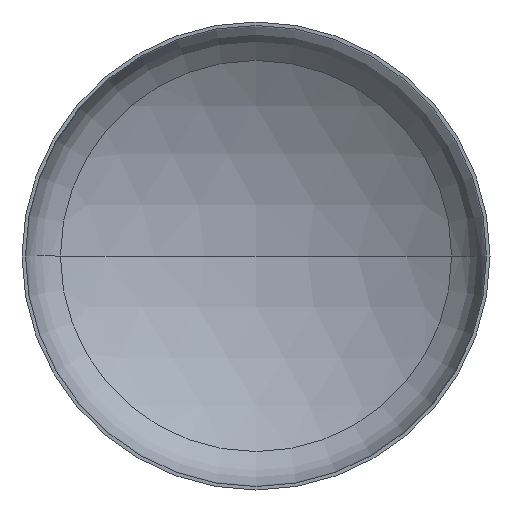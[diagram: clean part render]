
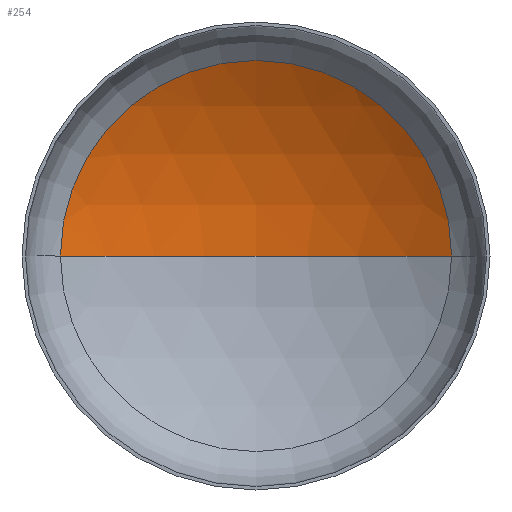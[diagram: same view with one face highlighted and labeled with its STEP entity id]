
A CAD part, front view. The second image highlights one B-rep face of the part: STEP entity #254.
In plain terms, the highlighted spherical face has radius 640 mm.
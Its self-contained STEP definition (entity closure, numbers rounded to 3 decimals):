
#5 = AXIS2_PLACEMENT_3D ( 'NONE', #275, #248, #333 ) ;
#12 = AXIS2_PLACEMENT_3D ( 'NONE', #60, #201, #359 ) ;
#16 = AXIS2_PLACEMENT_3D ( 'NONE', #209, #247, #252 ) ;
#29 = AXIS2_PLACEMENT_3D ( 'NONE', #271, #199, #307 ) ;
#60 = CARTESIAN_POINT ( 'NONE',  ( 0., -419.163, 0. ) ) ;
#84 = CIRCLE ( 'NONE', #12, 640. ) ;
#94 = EDGE_LOOP ( 'NONE', ( #134, #139, #109 ) ) ;
#100 = CIRCLE ( 'NONE', #16, 640. ) ;
#109 = ORIENTED_EDGE ( 'NONE', *, *, #363, .T. ) ;
#111 = VERTEX_POINT ( 'NONE', #221 ) ;
#123 = CARTESIAN_POINT ( 'NONE',  ( -334.291, 126.593, 0. ) ) ;
#125 = VERTEX_POINT ( 'NONE', #123 ) ;
#134 = ORIENTED_EDGE ( 'NONE', *, *, #345, .F. ) ;
#139 = ORIENTED_EDGE ( 'NONE', *, *, #344, .T. ) ;
#145 = VERTEX_POINT ( 'NONE', #257 ) ;
#199 = DIRECTION ( 'NONE',  ( 0., 0., -1. ) ) ;
#201 = DIRECTION ( 'NONE',  ( 0., 0., 1. ) ) ;
#209 = CARTESIAN_POINT ( 'NONE',  ( 0., -419.163, 0. ) ) ;
#221 = CARTESIAN_POINT ( 'NONE',  ( 0., 220.837, 0. ) ) ;
#224 = FACE_OUTER_BOUND ( 'NONE', #94, .T. ) ;
#247 = DIRECTION ( 'NONE',  ( 0., 0., -1. ) ) ;
#248 = DIRECTION ( 'NONE',  ( 0., -1., 0. ) ) ;
#252 = DIRECTION ( 'NONE',  ( -1., 0., 0. ) ) ;
#254 = ADVANCED_FACE ( 'NONE', ( #224 ), #342, .F. ) ;
#257 = CARTESIAN_POINT ( 'NONE',  ( 334.291, 126.593, 0. ) ) ;
#271 = CARTESIAN_POINT ( 'NONE',  ( 0., -419.163, 0. ) ) ;
#275 = CARTESIAN_POINT ( 'NONE',  ( 0., 126.593, 0. ) ) ;
#307 = DIRECTION ( 'NONE',  ( -1., 0., 0. ) ) ;
#314 = CIRCLE ( 'NONE', #5, 334.291 ) ;
#333 = DIRECTION ( 'NONE',  ( 1., 0., 0. ) ) ;
#342 = SPHERICAL_SURFACE ( 'NONE', #29, 640. ) ;
#344 = EDGE_CURVE ( 'NONE', #111, #145, #100, .T. ) ;
#345 = EDGE_CURVE ( 'NONE', #111, #125, #84, .T. ) ;
#359 = DIRECTION ( 'NONE',  ( 1., 0., 0. ) ) ;
#363 = EDGE_CURVE ( 'NONE', #145, #125, #314, .T. ) ;
